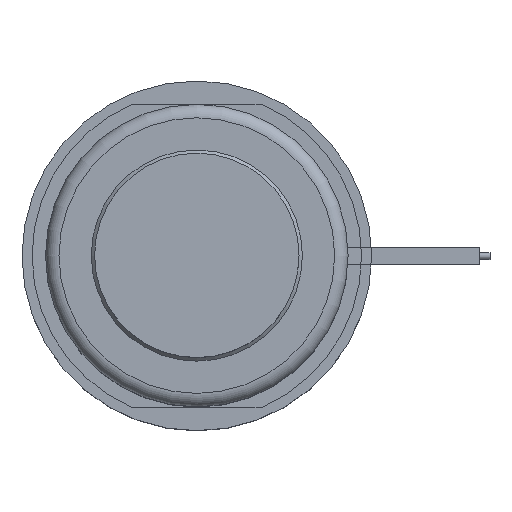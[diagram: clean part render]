
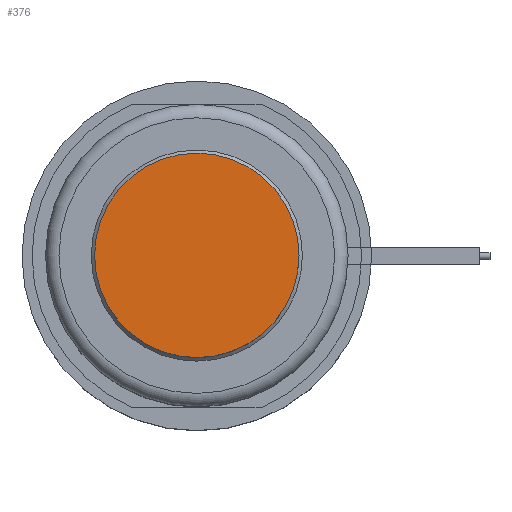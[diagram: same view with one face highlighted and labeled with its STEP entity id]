
A CAD part, top view. The second image highlights one B-rep face of the part: STEP entity #376.
In plain terms, the highlighted planar face has unit normal (0, 0, 1).
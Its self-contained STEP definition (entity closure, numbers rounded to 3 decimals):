
#254=PLANE('',#1369);
#300=FACE_OUTER_BOUND('',#595,.T.);
#376=ADVANCED_FACE('',(#300),#254,.F.);
#595=EDGE_LOOP('',(#743));
#743=ORIENTED_EDGE('',*,*,#1130,.F.);
#1016=VERTEX_POINT('',#1986);
#1130=EDGE_CURVE('',#1016,#1016,#1273,.T.);
#1273=CIRCLE('',#1368,15.2);
#1368=AXIS2_PLACEMENT_3D('',#1985,#1575,#1576);
#1369=AXIS2_PLACEMENT_3D('',#1987,#1577,#1578);
#1575=DIRECTION('',(0.,0.,-1.));
#1576=DIRECTION('',(-1.,0.,0.));
#1577=DIRECTION('',(0.,0.,-1.));
#1578=DIRECTION('',(-1.,0.,0.));
#1985=CARTESIAN_POINT('',(0.,0.,18.));
#1986=CARTESIAN_POINT('',(-15.2,0.,18.));
#1987=CARTESIAN_POINT('',(0.,0.,18.));
